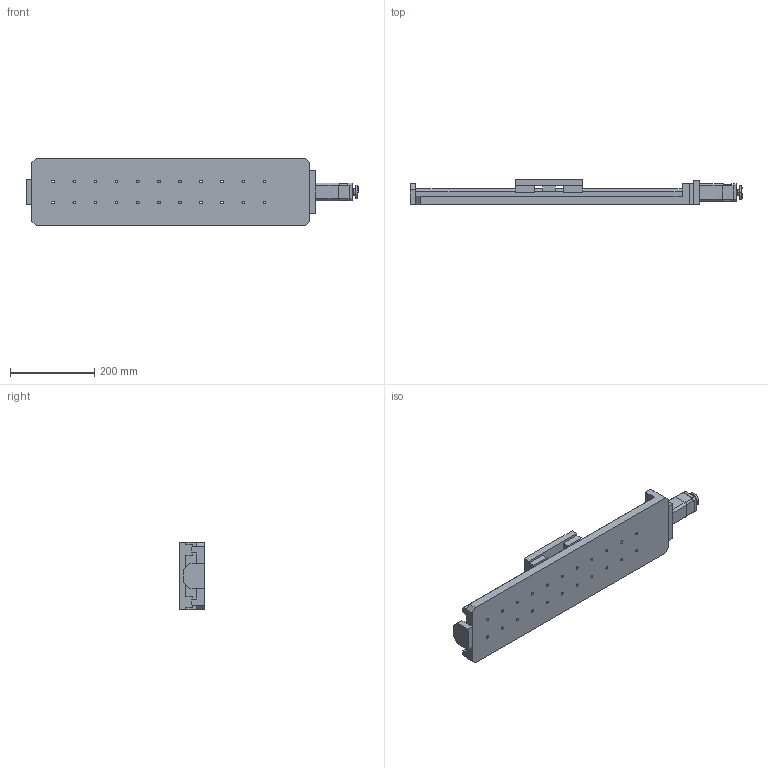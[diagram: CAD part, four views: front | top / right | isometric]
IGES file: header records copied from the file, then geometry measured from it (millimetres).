
Start section: SolidWorks IGES file using analytic representation for surfaces
Global section: file name: C:\Users\dubin\Desktop\0918\PT-GD140G(400)\PT-GD140G(400).IGS; native system: SolidWorks 2017; preprocessor: SolidWorks 2017; author: PDV; date: 220918.135816; units: millimetre
Bounding box: 786 x 61 x 160 mm (x, y, z)
Surface area: 425270.9 mm2 (no closed solid volume)
Topology: 0 solids, 0 shells, 476 faces, 7192 edges, 7152 vertices
Faces by surface type: revolution 296, bspline 180
